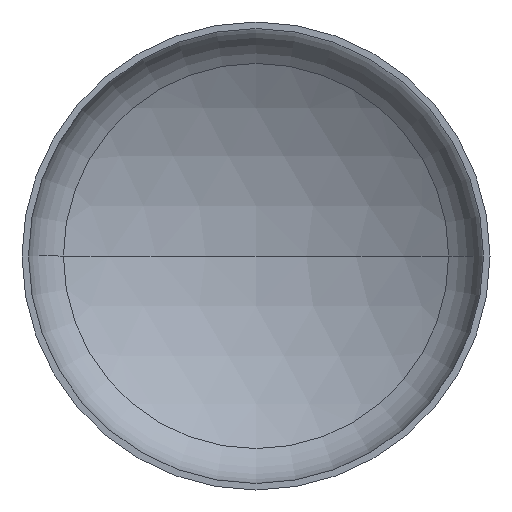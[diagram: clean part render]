
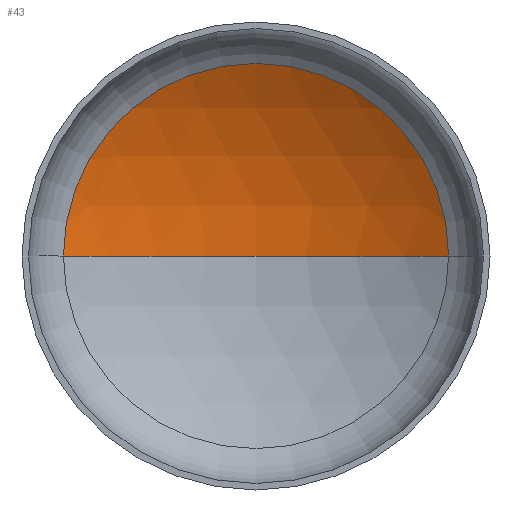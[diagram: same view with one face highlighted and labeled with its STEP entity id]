
A CAD part, front view. The second image highlights one B-rep face of the part: STEP entity #43.
In plain terms, the highlighted spherical face has radius 2400 mm.
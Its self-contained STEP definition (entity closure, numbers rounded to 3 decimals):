
#21 = VERTEX_POINT ( 'NONE', #373 ) ;
#23 = VERTEX_POINT ( 'NONE', #282 ) ;
#25 = AXIS2_PLACEMENT_3D ( 'NONE', #68, #411, #353 ) ;
#27 = AXIS2_PLACEMENT_3D ( 'NONE', #199, #381, #161 ) ;
#30 = AXIS2_PLACEMENT_3D ( 'NONE', #158, #164, #165 ) ;
#43 = ADVANCED_FACE ( 'NONE', ( #246 ), #368, .F. ) ;
#55 = AXIS2_PLACEMENT_3D ( 'NONE', #254, #372, #263 ) ;
#60 = EDGE_LOOP ( 'NONE', ( #206, #141, #109 ) ) ;
#68 = CARTESIAN_POINT ( 'NONE',  ( 0., -1533.609, 0. ) ) ;
#74 = EDGE_CURVE ( 'NONE', #118, #23, #292, .T. ) ;
#76 = EDGE_CURVE ( 'NONE', #21, #118, #224, .T. ) ;
#79 = EDGE_CURVE ( 'NONE', #21, #23, #123, .T. ) ;
#109 = ORIENTED_EDGE ( 'NONE', *, *, #74, .T. ) ;
#118 = VERTEX_POINT ( 'NONE', #327 ) ;
#123 = CIRCLE ( 'NONE', #25, 2400. ) ;
#141 = ORIENTED_EDGE ( 'NONE', *, *, #76, .T. ) ;
#158 = CARTESIAN_POINT ( 'NONE',  ( 0., 524.464, 0. ) ) ;
#161 = DIRECTION ( 'NONE',  ( -1., 0., 0. ) ) ;
#164 = DIRECTION ( 'NONE',  ( 0., -1., 0. ) ) ;
#165 = DIRECTION ( 'NONE',  ( 1., 0., 0. ) ) ;
#199 = CARTESIAN_POINT ( 'NONE',  ( 0., -1533.609, 0. ) ) ;
#206 = ORIENTED_EDGE ( 'NONE', *, *, #79, .F. ) ;
#224 = CIRCLE ( 'NONE', #27, 2400. ) ;
#246 = FACE_OUTER_BOUND ( 'NONE', #60, .T. ) ;
#254 = CARTESIAN_POINT ( 'NONE',  ( 0., -1533.609, 0. ) ) ;
#263 = DIRECTION ( 'NONE',  ( -1., 0., 0. ) ) ;
#282 = CARTESIAN_POINT ( 'NONE',  ( -1234.639, 524.464, 0. ) ) ;
#292 = CIRCLE ( 'NONE', #30, 1234.639 ) ;
#327 = CARTESIAN_POINT ( 'NONE',  ( 1234.639, 524.464, 0. ) ) ;
#353 = DIRECTION ( 'NONE',  ( 1., 0., 0. ) ) ;
#368 = SPHERICAL_SURFACE ( 'NONE', #55, 2400. ) ;
#372 = DIRECTION ( 'NONE',  ( 0., 0., -1. ) ) ;
#373 = CARTESIAN_POINT ( 'NONE',  ( 0., 866.391, 0. ) ) ;
#381 = DIRECTION ( 'NONE',  ( 0., 0., -1. ) ) ;
#411 = DIRECTION ( 'NONE',  ( 0., 0., 1. ) ) ;
